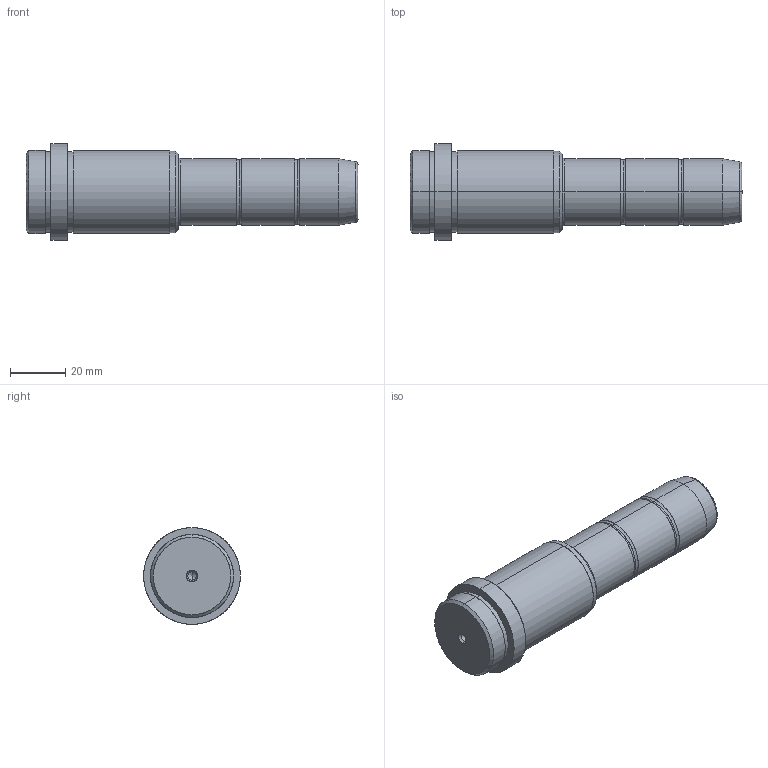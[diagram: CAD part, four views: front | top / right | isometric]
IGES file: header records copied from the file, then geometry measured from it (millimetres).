
Start section: SolidWorks IGES FILE using analytic representation for surfaces
Global section: file name: D:\zzzzz\Delta\D03\24\D03 - 24x46x65.IGS; native system: SolidWorks 2004 by SolidWorks Corporation; preprocessor: Version 5.3; author: Hkn; date: 080327.165206; units: millimetre
Bounding box: 120 x 35 x 35 mm (x, y, z)
Surface area: 12092.5 mm2 (no closed solid volume)
Topology: 0 solids, 0 shells, 56 faces, 1056 edges, 1052 vertices
Faces by surface type: revolution 36, bspline 20
